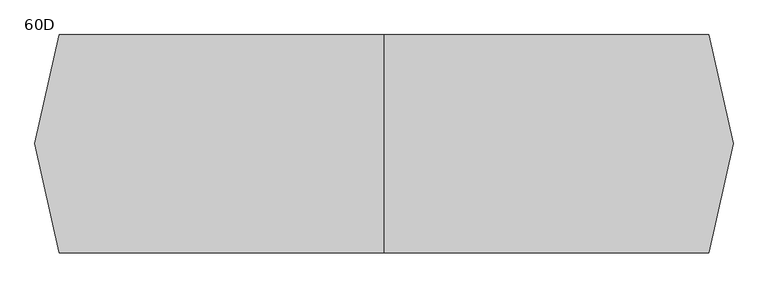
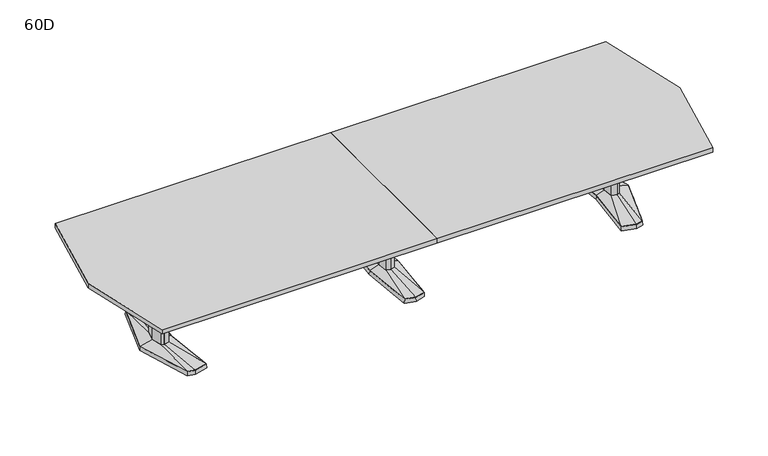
"""IFC4 building model written with IfcOpenShell, lengths in millimetres: furniture geometry, Coalesse_AM_Table_Conference_ETable2_Faceted_16ft_AluminiumBase : 60D."""

from ifc_helpers import new_model, si_unit, frame, origin, place, context, project, spatial, polyline, outline, extrude, faceted_brep, source, transform, mapped, element, save
from ifc_brep_helpers import plane_surface, spline_surface, advanced_brep


def furniture_60d_e359e779(model_context):
    return source(origin(), model_context, "Body", "SolidModel", [
        faceted_brep([(-81.2333791, -433.8053819, 38.1), (0.0, -455.556576, 38.1), (81.2333791, -433.8053819, 38.1), (119.0564774, 0.0, 38.1), (81.2333791, 433.8053819, 38.1), (0.0, 455.556576, 38.1), (-81.2333791, 433.8053819, 38.1), (-119.0564774, 0.0, 38.1), (-82.7182795, -435.0512063, 3.175), (-120.65, 0.0, 3.175), (-82.7182795, 435.0512063, 3.175), (0.0, 457.2, 3.175), (82.7182795, 435.0512063, 3.175), (120.65, 0.0, 3.175), (82.7182795, -435.0512063, 3.175), (0.0, -457.2, 3.175), (0.0, 429.2617927, 3.175), (-77.9676806, 408.3850278, 3.175), (-74.7019821, 382.9646737, 3.175), (0.0, 402.9670094, 3.175), (74.7019821, 382.9646737, 3.175), (77.9676806, 408.3850278, 3.175), (0.0, -429.2617927, 3.175), (77.9676806, -408.3850278, 3.175), (74.7019821, -382.9646737, 3.175), (0.0, -402.9670094, 3.175), (-74.7019821, -382.9646737, 3.175), (-77.9676806, -408.3850278, 3.175), (-71.8574262, 114.6326257, 3.175), (-82.5426076, 0.0, 3.175), (-71.8574262, -114.6326257, 3.175), (0.0, -133.8761372, 3.175), (71.8574262, -114.6326257, 3.175), (82.5426076, 0.0, 3.175), (71.8574262, 114.6326257, 3.175), (0.0, 133.8761372, 3.175), (0.0, 429.2617927, 0.0), (77.9676806, 408.3850278, 0.0), (74.7019821, 382.9646737, 0.0), (0.0, 402.9670094, 0.0), (-74.7019821, 382.9646737, 0.0), (-77.9676806, 408.3850278, 0.0), (0.0, -429.2617927, 0.0), (-77.9676806, -408.3850278, 0.0), (-74.7019821, -382.9646737, 0.0), (0.0, -402.9670094, 0.0), (74.7019821, -382.9646737, 0.0), (77.9676806, -408.3850278, 0.0), (-71.8574262, 114.6326257, 0.0), (0.0, 133.8761372, 0.0), (71.8574262, 114.6326257, 0.0), (82.5426076, 0.0, 0.0), (71.8574262, -114.6326257, 0.0), (0.0, -133.8761372, 0.0), (-71.8574262, -114.6326257, 0.0), (-82.5426076, 0.0, 0.0)], [[[0, 1, 2, 3, 4, 5, 6, 7]], [[8, 9, 10, 11, 12, 13, 14, 15], [16, 17, 18, 19, 20, 21], [22, 23, 24, 25, 26, 27], [28, 29, 30, 31, 32, 33, 34, 35]], [[1, 0, 8, 15]], [[2, 1, 15, 14]], [[3, 2, 14, 13]], [[4, 3, 13, 12]], [[5, 4, 12, 11]], [[6, 5, 11, 10]], [[7, 6, 10, 9]], [[0, 7, 9, 8]], [[36, 37, 38, 39, 40, 41]], [[42, 43, 44, 45, 46, 47]], [[48, 49, 50, 51, 52, 53, 54, 55]], [[36, 41, 17, 16]], [[41, 40, 18, 17]], [[40, 39, 19, 18]], [[39, 38, 20, 19]], [[38, 37, 21, 20]], [[37, 36, 16, 21]], [[42, 47, 23, 22]], [[47, 46, 24, 23]], [[46, 45, 25, 24]], [[45, 44, 26, 25]], [[44, 43, 27, 26]], [[43, 42, 22, 27]], [[48, 55, 29, 28]], [[55, 54, 30, 29]], [[54, 53, 31, 30]], [[53, 52, 32, 31]], [[52, 51, 33, 32]], [[51, 50, 34, 33]], [[50, 49, 35, 34]], [[49, 48, 28, 35]]]),
        faceted_brep([(-36.3832834, 84.6900825, 698.5), (-44.2774487, 0.0, 698.5), (-36.3832834, -84.6900825, 698.5), (0.0, -94.4335728, 698.5), (36.3832834, -84.6900825, 698.5), (44.2774487, 0.0, 698.5), (36.3832834, 84.6900825, 698.5), (0.0, 94.4335728, 698.5), (-36.3832834, 84.6900825, 63.5), (0.0, 94.4335728, 63.5), (36.3832834, 84.6900825, 63.5), (44.2774487, 0.0, 63.5), (36.3832834, -84.6900825, 63.5), (0.0, -94.4335728, 63.5), (-36.3832834, -84.6900825, 63.5), (-44.2774487, 0.0, 63.5)], [[[0, 1, 2, 3, 4, 5, 6, 7]], [[8, 9, 10, 11, 12, 13, 14, 15]], [[1, 0, 8, 15]], [[2, 1, 15, 14]], [[3, 2, 14, 13]], [[4, 3, 13, 12]], [[5, 4, 12, 11]], [[6, 5, 11, 10]], [[7, 6, 10, 9]], [[0, 7, 9, 8]]]),
        advanced_brep(
        [(-36.3832834, 84.6900825, 63.5), (-44.2774487, 0.0, 63.5), (-36.3832834, -84.6900825, 63.5), (0.0, -94.4335728, 63.5), (36.3832834, -84.6900825, 63.5), (44.2774487, 0.0, 63.5), (36.3832834, 84.6900825, 63.5), (0.0, 94.4335728, 63.5), (-81.2333791, 433.8053819, 38.1), (0.0, 455.556576, 38.1), (81.2333791, 433.8053819, 38.1), (119.0564774, 0.0, 38.1), (81.2333791, -433.8053819, 38.1), (0.0, -455.556576, 38.1), (-81.2333791, -433.8053819, 38.1), (-119.0564774, 0.0, 38.1)],
        [
            (0, 1),
            (1, 2),
            (2, 3),
            (3, 4),
            (4, 5),
            (5, 6),
            (6, 7),
            (7, 0),
            (8, 9),
            (9, 10),
            (10, 11),
            (11, 12),
            (12, 13),
            (13, 14),
            (14, 15),
            (15, 8),
            (15, 1),
            (0, 8),
            (14, 2),
            (13, 3),
            (12, 4),
            (11, 5),
            (10, 6),
            (9, 7),
        ],
        [
            plane_surface(frame((0.0, 0.0, 63.5), z_axis=(0.0, 0.0, 1.0000000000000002), x_axis=(-0.9659615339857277, -0.25868574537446, 0.0))),
            plane_surface(frame((0.0, 0.0, 38.1), z_axis=(0.0, 0.0, -1.0000000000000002), x_axis=(-0.9659615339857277, -0.25868574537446, 0.0))),
            spline_surface(1, 1, [[(-81.2333791, 433.8053819, 38.1), (-36.3832834, 84.6900825, 63.5)], [(-119.0564774, 0.0, 38.1), (-44.2774487, 0.0, 63.5)]], [2, 2], [2, 2], [0.0, 1.0], [0.0, 1.0]),
            spline_surface(1, 1, [[(-119.0564774, 0.0, 38.1), (-44.2774487, 0.0, 63.5)], [(-81.2333791, -433.8053819, 38.1), (-36.3832834, -84.6900825, 63.5)]], [2, 2], [2, 2], [0.0, 1.0], [0.0, 1.0]),
            spline_surface(1, 1, [[(-81.2333791, -433.8053819, 38.1), (-36.3832834, -84.6900825, 63.5)], [(0.0, -455.556576, 38.1), (0.0, -94.4335728, 63.5)]], [2, 2], [2, 2], [0.0, 1.0], [0.0, 1.0]),
            spline_surface(1, 1, [[(0.0, -455.556576, 38.1), (0.0, -94.4335728, 63.5)], [(81.2333791, -433.8053819, 38.1), (36.3832834, -84.6900825, 63.5)]], [2, 2], [2, 2], [0.0, 1.0], [0.0, 1.0]),
            spline_surface(1, 1, [[(81.2333791, -433.8053819, 38.1), (36.3832834, -84.6900825, 63.5)], [(119.0564774, 0.0, 38.1), (44.2774487, 0.0, 63.5)]], [2, 2], [2, 2], [0.0, 1.0], [0.0, 1.0]),
            spline_surface(1, 1, [[(119.0564774, 0.0, 38.1), (44.2774487, 0.0, 63.5)], [(81.2333791, 433.8053819, 38.1), (36.3832834, 84.6900825, 63.5)]], [2, 2], [2, 2], [0.0, 1.0], [0.0, 1.0]),
            spline_surface(1, 1, [[(81.2333791, 433.8053819, 38.1), (36.3832834, 84.6900825, 63.5)], [(0.0, 455.556576, 38.1), (0.0, 94.4335728, 63.5)]], [2, 2], [2, 2], [0.0, 1.0], [0.0, 1.0]),
            spline_surface(1, 1, [[(0.0, 455.556576, 38.1), (0.0, 94.4335728, 63.5)], [(-81.2333791, 433.8053819, 38.1), (-36.3832834, 84.6900825, 63.5)]], [2, 2], [2, 2], [0.0, 1.0], [0.0, 1.0]),
        ],
        [
            (0, [[1, 2, 3, 4, 5, 6, 7, 8]]),
            (1, [[9, 10, 11, 12, 13, 14, 15, 16]]),
            (2, [[-16, 17, -1, 18]]),
            (3, [[-15, 19, -2, -17]]),
            (4, [[-14, 20, -3, -19]]),
            (5, [[-13, 21, -4, -20]]),
            (6, [[-12, 22, -5, -21]]),
            (7, [[-11, 23, -6, -22]]),
            (8, [[-10, 24, -7, -23]]),
            (9, [[-9, -18, -8, -24]]),
        ],
    ),
        faceted_brep([(1820.2306835, 455.5848221, 38.1), (1710.6531277, 426.2263816, 38.1), (1751.8163717, 0.0, 38.1), (1710.6531277, -426.2263816, 38.1), (1820.2306835, -455.5848221, 38.1), (1876.3570396, -440.5478297, 38.1), (2013.6684269, 0.0, 38.1), (1876.3570396, 440.5478297, 38.1), (1820.2306754, 457.2283104, 3.175), (1877.6124472, 441.8549756, 3.175), (2015.33125, 0.0, 3.175), (1877.6124472, -441.8549756, 3.175), (1820.2306754, -457.2283104, 3.175), (1708.94375, -427.4118891, 3.175), (1750.2214856, 0.0, 3.175), (1708.94375, 427.4118891, 3.175), (1823.820115, 428.3273875, 3.175), (1718.7718228, 402.1057253, 3.175), (1726.890518, 377.985069, 3.175), (1827.4095466, 401.0699529, 3.175), (1877.9691725, 387.524361, 3.175), (1877.1631061, 414.0360954, 3.175), (1823.820115, -428.3273875, 3.175), (1877.1631061, -414.0360954, 3.175), (1877.9691725, -387.524361, 3.175), (1827.4095466, -401.0699529, 3.175), (1726.890518, -377.985069, 3.175), (1718.7718228, -402.1057253, 3.175), (1950.4153621, 0.0, 3.175), (1918.1459611, 120.4193755, 3.175), (1869.4987222, 133.471665, 3.175), (1789.6180526, 119.4176561, 3.175), (1778.4868466, 0.0, 3.175), (1789.6180526, -119.4176561, 3.175), (1869.4987222, -133.471665, 3.175), (1918.1459611, -120.4193755, 3.175), (1823.820115, 428.3273875, 0.0), (1877.1631061, 414.0360954, 0.0), (1877.9691725, 387.524361, 0.0), (1827.4095466, 401.0699529, 0.0), (1726.890518, 377.985069, 0.0), (1718.7718228, 402.1057253, 0.0), (1823.820115, -428.3273875, 0.0), (1718.7718228, -402.1057253, 0.0), (1726.890518, -377.985069, 0.0), (1827.4095466, -401.0699529, 0.0), (1877.9691725, -387.524361, 0.0), (1877.1631061, -414.0360954, 0.0), (1950.4153621, 0.0, 0.0), (1918.1459611, -120.4193755, 0.0), (1869.4987222, -133.471665, 0.0), (1789.6180526, -119.4176561, 0.0), (1778.4868466, 0.0, 0.0), (1789.6180526, 119.4176561, 0.0), (1869.4987222, 133.471665, 0.0), (1918.1459611, 120.4193755, 0.0)], [[[0, 1, 2, 3, 4, 5, 6, 7]], [[8, 9, 10, 11, 12, 13, 14, 15], [16, 17, 18, 19, 20, 21], [22, 23, 24, 25, 26, 27], [28, 29, 30, 31, 32, 33, 34, 35]], [[7, 9, 8, 0]], [[6, 10, 9, 7]], [[5, 11, 10, 6]], [[4, 12, 11, 5]], [[3, 13, 12, 4]], [[2, 14, 13, 3]], [[1, 15, 14, 2]], [[0, 8, 15, 1]], [[36, 37, 38, 39, 40, 41]], [[42, 43, 44, 45, 46, 47]], [[48, 49, 50, 51, 52, 53, 54, 55]], [[36, 16, 21, 37]], [[37, 21, 20, 38]], [[38, 20, 19, 39]], [[39, 19, 18, 40]], [[40, 18, 17, 41]], [[41, 17, 16, 36]], [[42, 22, 27, 43]], [[43, 27, 26, 44]], [[44, 26, 25, 45]], [[45, 25, 24, 46]], [[46, 24, 23, 47]], [[47, 23, 22, 42]], [[48, 28, 35, 49]], [[49, 35, 34, 50]], [[50, 34, 33, 51]], [[51, 33, 32, 52]], [[52, 32, 31, 53]], [[53, 31, 30, 54]], [[54, 30, 29, 55]], [[55, 29, 28, 48]]]),
        faceted_brep([(1910.9710836, 0.0, 698.5), (1887.0358546, 89.3188359, 698.5), (1870.1824984, 93.8406728, 698.5), (1867.7826511, 94.4845635, 698.5), (1824.855146, 86.9320037, 698.5), (1816.7520056, 0.0, 698.5), (1824.855146, -86.9320037, 698.5), (1867.7826511, -94.4845635, 698.5), (1870.1824984, -93.8406728, 698.5), (1887.0358546, -89.3188359, 698.5), (1910.9710836, 0.0, 63.5), (1887.0358546, -89.3188359, 63.5), (1870.1824984, -93.8406728, 63.5), (1867.7826511, -94.4845635, 63.5), (1824.855146, -86.9320037, 63.5), (1816.7520056, 0.0, 63.5), (1824.855146, 86.9320037, 63.5), (1867.7826511, 94.4845635, 63.5), (1870.1824984, 93.8406728, 63.5), (1887.0358546, 89.3188359, 63.5)], [[[0, 1, 2, 3, 4, 5, 6, 7, 8, 9]], [[10, 11, 12, 13, 14, 15, 16, 17, 18, 19]], [[9, 11, 10, 0]], [[8, 12, 11, 9]], [[7, 13, 12, 8]], [[6, 14, 13, 7]], [[5, 15, 14, 6]], [[4, 16, 15, 5]], [[3, 17, 16, 4]], [[2, 18, 17, 3]], [[1, 19, 18, 2]], [[0, 10, 19, 1]]]),
        advanced_brep(
        [(1867.7826511, 94.4845635, 63.5), (1824.855146, 86.9320037, 63.5), (1816.7520056, 0.0, 63.5), (1824.855146, -86.9320037, 63.5), (1867.7826511, -94.4845635, 63.5), (1887.0358546, -89.3188359, 63.5), (1910.9710836, 0.0, 63.5), (1887.0358546, 89.3188359, 63.5), (1820.2306835, 455.5848221, 38.1), (1876.3570396, 440.5478297, 38.1), (2013.6684269, 0.0, 38.1), (1876.3570396, -440.5478297, 38.1), (1820.2306835, -455.5848221, 38.1), (1710.6531277, -426.2263816, 38.1), (1751.8163717, 0.0, 38.1), (1710.6531277, 426.2263816, 38.1)],
        [
            (0, 1),
            (1, 2),
            (2, 3),
            (3, 4),
            (4, 5),
            (5, 6),
            (6, 7),
            (7, 0),
            (8, 9),
            (9, 10),
            (10, 11),
            (11, 12),
            (12, 13),
            (13, 14),
            (14, 15),
            (15, 8),
            (8, 0),
            (7, 9),
            (6, 10),
            (5, 11),
            (4, 12),
            (3, 13),
            (2, 14),
            (1, 15),
        ],
        [
            plane_surface(frame((1860.8837991, 0.0, 63.5), z_axis=(0.0, 0.0, 1.0), x_axis=(-0.25884244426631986, -0.9659195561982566, 0.0))),
            plane_surface(frame((1822.4958125, 0.0, 38.1), z_axis=(0.0, 0.0, -1.0), x_axis=(-0.25884244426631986, -0.9659195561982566, 0.0))),
            spline_surface(1, 1, [[(1820.2306835, 455.5848221, 38.1), (1876.3570396, 440.5478297, 38.1)], [(1867.7826511, 94.4845635, 63.5), (1887.0358546, 89.3188359, 63.5)]], [2, 2], [2, 2], [0.0, 1.0], [0.0, 1.0]),
            spline_surface(1, 1, [[(1876.3570396, 440.5478297, 38.1), (2013.6684269, 0.0, 38.1)], [(1887.0358546, 89.3188359, 63.5), (1910.9710836, 0.0, 63.5)]], [2, 2], [2, 2], [0.0, 1.0], [0.0, 1.0]),
            spline_surface(1, 1, [[(2013.6684269, 0.0, 38.1), (1876.3570396, -440.5478297, 38.1)], [(1910.9710836, 0.0, 63.5), (1887.0358546, -89.3188359, 63.5)]], [2, 2], [2, 2], [0.0, 1.0], [0.0, 1.0]),
            spline_surface(1, 1, [[(1876.3570396, -440.5478297, 38.1), (1820.2306835, -455.5848221, 38.1)], [(1887.0358546, -89.3188359, 63.5), (1867.7826511, -94.4845635, 63.5)]], [2, 2], [2, 2], [0.0, 1.0], [0.0, 1.0]),
            spline_surface(1, 1, [[(1820.2306835, -455.5848221, 38.1), (1710.6531277, -426.2263816, 38.1)], [(1867.7826511, -94.4845635, 63.5), (1824.855146, -86.9320037, 63.5)]], [2, 2], [2, 2], [0.0, 1.0], [0.0, 1.0]),
            spline_surface(1, 1, [[(1710.6531277, -426.2263816, 38.1), (1751.8163717, 0.0, 38.1)], [(1824.855146, -86.9320037, 63.5), (1816.7520056, 0.0, 63.5)]], [2, 2], [2, 2], [0.0, 1.0], [0.0, 1.0]),
            spline_surface(1, 1, [[(1751.8163717, 0.0, 38.1), (1710.6531277, 426.2263816, 38.1)], [(1816.7520056, 0.0, 63.5), (1824.855146, 86.9320037, 63.5)]], [2, 2], [2, 2], [0.0, 1.0], [0.0, 1.0]),
            spline_surface(1, 1, [[(1710.6531277, 426.2263816, 38.1), (1820.2306835, 455.5848221, 38.1)], [(1824.855146, 86.9320037, 63.5), (1867.7826511, 94.4845635, 63.5)]], [2, 2], [2, 2], [0.0, 1.0], [0.0, 1.0]),
        ],
        [
            (0, [[1, 2, 3, 4, 5, 6, 7, 8]]),
            (1, [[9, 10, 11, 12, 13, 14, 15, 16]]),
            (2, [[17, -8, 18, -9]]),
            (3, [[-18, -7, 19, -10]]),
            (4, [[-19, -6, 20, -11]]),
            (5, [[-20, -5, 21, -12]]),
            (6, [[-21, -4, 22, -13]]),
            (7, [[-22, -3, 23, -14]]),
            (8, [[-23, -2, 24, -15]]),
            (9, [[-24, -1, -17, -16]]),
        ],
    ),
        faceted_brep([(-1820.2306835, 455.5848221, 38.1), (-1876.3570396, 440.5478297, 38.1), (-2013.6684269, 0.0, 38.1), (-1876.3570396, -440.5478297, 38.1), (-1820.2306835, -455.5848221, 38.1), (-1710.6531277, -426.2263816, 38.1), (-1751.8163717, 0.0, 38.1), (-1710.6531277, 426.2263816, 38.1), (-1820.2306754, 457.2283104, 3.175), (-1708.94375, 427.4118891, 3.175), (-1750.2214856, 0.0, 3.175), (-1708.94375, -427.4118891, 3.175), (-1820.2306754, -457.2283104, 3.175), (-1877.6124472, -441.8549756, 3.175), (-2015.33125, 0.0, 3.175), (-1877.6124472, 441.8549756, 3.175), (-1823.820115, 428.3273875, 3.175), (-1877.1631061, 414.0360954, 3.175), (-1877.9691725, 387.524361, 3.175), (-1827.4095466, 401.0699529, 3.175), (-1726.890518, 377.985069, 3.175), (-1718.7718228, 402.1057253, 3.175), (-1823.820115, -428.3273875, 3.175), (-1718.7718228, -402.1057253, 3.175), (-1726.890518, -377.985069, 3.175), (-1827.4095466, -401.0699529, 3.175), (-1877.9691725, -387.524361, 3.175), (-1877.1631061, -414.0360954, 3.175), (-1950.4153621, 0.0, 3.175), (-1918.1459611, -120.4193755, 3.175), (-1869.4987222, -133.471665, 3.175), (-1789.6180526, -119.4176561, 3.175), (-1778.4868466, 0.0, 3.175), (-1789.6180526, 119.4176561, 3.175), (-1869.4987222, 133.471665, 3.175), (-1918.1459611, 120.4193755, 3.175), (-1823.820115, 428.3273875, 0.0), (-1718.7718228, 402.1057253, 0.0), (-1726.890518, 377.985069, 0.0), (-1827.4095466, 401.0699529, 0.0), (-1877.9691725, 387.524361, 0.0), (-1877.1631061, 414.0360954, 0.0), (-1823.820115, -428.3273875, 0.0), (-1877.1631061, -414.0360954, 0.0), (-1877.9691725, -387.524361, 0.0), (-1827.4095466, -401.0699529, 0.0), (-1726.890518, -377.985069, 0.0), (-1718.7718228, -402.1057253, 0.0), (-1950.4153621, 0.0, 0.0), (-1918.1459611, 120.4193755, 0.0), (-1869.4987222, 133.471665, 0.0), (-1789.6180526, 119.4176561, 0.0), (-1778.4868466, 0.0, 0.0), (-1789.6180526, -119.4176561, 0.0), (-1869.4987222, -133.471665, 0.0), (-1918.1459611, -120.4193755, 0.0)], [[[0, 1, 2, 3, 4, 5, 6, 7]], [[8, 9, 10, 11, 12, 13, 14, 15], [16, 17, 18, 19, 20, 21], [22, 23, 24, 25, 26, 27], [28, 29, 30, 31, 32, 33, 34, 35]], [[1, 0, 8, 15]], [[2, 1, 15, 14]], [[3, 2, 14, 13]], [[4, 3, 13, 12]], [[5, 4, 12, 11]], [[6, 5, 11, 10]], [[7, 6, 10, 9]], [[0, 7, 9, 8]], [[36, 37, 38, 39, 40, 41]], [[42, 43, 44, 45, 46, 47]], [[48, 49, 50, 51, 52, 53, 54, 55]], [[36, 41, 17, 16]], [[41, 40, 18, 17]], [[40, 39, 19, 18]], [[39, 38, 20, 19]], [[38, 37, 21, 20]], [[37, 36, 16, 21]], [[42, 47, 23, 22]], [[47, 46, 24, 23]], [[46, 45, 25, 24]], [[45, 44, 26, 25]], [[44, 43, 27, 26]], [[43, 42, 22, 27]], [[48, 55, 29, 28]], [[55, 54, 30, 29]], [[54, 53, 31, 30]], [[53, 52, 32, 31]], [[52, 51, 33, 32]], [[51, 50, 34, 33]], [[50, 49, 35, 34]], [[49, 48, 28, 35]]]),
        faceted_brep([(-1910.9710836, 0.0, 698.5), (-1887.0358546, -89.3188359, 698.5), (-1870.1824984, -93.8406728, 698.5), (-1867.7826511, -94.4845635, 698.5), (-1824.855146, -86.9320037, 698.5), (-1816.7520056, 0.0, 698.5), (-1824.855146, 86.9320037, 698.5), (-1867.7826511, 94.4845635, 698.5), (-1870.1824984, 93.8406728, 698.5), (-1887.0358546, 89.3188359, 698.5), (-1910.9710836, 0.0, 63.5), (-1887.0358546, 89.3188359, 63.5), (-1870.1824984, 93.8406728, 63.5), (-1867.7826511, 94.4845635, 63.5), (-1824.855146, 86.9320037, 63.5), (-1816.7520056, 0.0, 63.5), (-1824.855146, -86.9320037, 63.5), (-1867.7826511, -94.4845635, 63.5), (-1870.1824984, -93.8406728, 63.5), (-1887.0358546, -89.3188359, 63.5)], [[[0, 1, 2, 3, 4, 5, 6, 7, 8, 9]], [[10, 11, 12, 13, 14, 15, 16, 17, 18, 19]], [[1, 0, 10, 19]], [[2, 1, 19, 18]], [[3, 2, 18, 17]], [[4, 3, 17, 16]], [[5, 4, 16, 15]], [[6, 5, 15, 14]], [[7, 6, 14, 13]], [[8, 7, 13, 12]], [[9, 8, 12, 11]], [[0, 9, 11, 10]]]),
        advanced_brep(
        [(-1867.7826511, 94.4845635, 63.5), (-1887.0358546, 89.3188359, 63.5), (-1910.9710836, 0.0, 63.5), (-1887.0358546, -89.3188359, 63.5), (-1867.7826511, -94.4845635, 63.5), (-1824.855146, -86.9320037, 63.5), (-1816.7520056, 0.0, 63.5), (-1824.855146, 86.9320037, 63.5), (-1820.2306835, 455.5848221, 38.1), (-1710.6531277, 426.2263816, 38.1), (-1751.8163717, 0.0, 38.1), (-1710.6531277, -426.2263816, 38.1), (-1820.2306835, -455.5848221, 38.1), (-1876.3570396, -440.5478297, 38.1), (-2013.6684269, 0.0, 38.1), (-1876.3570396, 440.5478297, 38.1)],
        [
            (0, 1),
            (1, 2),
            (2, 3),
            (3, 4),
            (4, 5),
            (5, 6),
            (6, 7),
            (7, 0),
            (8, 9),
            (9, 10),
            (10, 11),
            (11, 12),
            (12, 13),
            (13, 14),
            (14, 15),
            (15, 8),
            (15, 1),
            (0, 8),
            (14, 2),
            (13, 3),
            (12, 4),
            (11, 5),
            (10, 6),
            (9, 7),
        ],
        [
            plane_surface(frame((-1860.8837991, 0.0, 63.5), z_axis=(0.0, 0.0, 1.0), x_axis=(0.25884244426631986, -0.9659195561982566, 0.0))),
            plane_surface(frame((-1822.4958125, 0.0, 38.1), z_axis=(0.0, 0.0, -1.0), x_axis=(0.25884244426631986, -0.9659195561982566, 0.0))),
            spline_surface(1, 1, [[(-1820.2306835, 455.5848221, 38.1), (-1867.7826511, 94.4845635, 63.5)], [(-1876.3570396, 440.5478297, 38.1), (-1887.0358546, 89.3188359, 63.5)]], [2, 2], [2, 2], [0.0, 1.0], [0.0, 1.0]),
            spline_surface(1, 1, [[(-1876.3570396, 440.5478297, 38.1), (-1887.0358546, 89.3188359, 63.5)], [(-2013.6684269, 0.0, 38.1), (-1910.9710836, 0.0, 63.5)]], [2, 2], [2, 2], [0.0, 1.0], [0.0, 1.0]),
            spline_surface(1, 1, [[(-2013.6684269, 0.0, 38.1), (-1910.9710836, 0.0, 63.5)], [(-1876.3570396, -440.5478297, 38.1), (-1887.0358546, -89.3188359, 63.5)]], [2, 2], [2, 2], [0.0, 1.0], [0.0, 1.0]),
            spline_surface(1, 1, [[(-1876.3570396, -440.5478297, 38.1), (-1887.0358546, -89.3188359, 63.5)], [(-1820.2306835, -455.5848221, 38.1), (-1867.7826511, -94.4845635, 63.5)]], [2, 2], [2, 2], [0.0, 1.0], [0.0, 1.0]),
            spline_surface(1, 1, [[(-1820.2306835, -455.5848221, 38.1), (-1867.7826511, -94.4845635, 63.5)], [(-1710.6531277, -426.2263816, 38.1), (-1824.855146, -86.9320037, 63.5)]], [2, 2], [2, 2], [0.0, 1.0], [0.0, 1.0]),
            spline_surface(1, 1, [[(-1710.6531277, -426.2263816, 38.1), (-1824.855146, -86.9320037, 63.5)], [(-1751.8163717, 0.0, 38.1), (-1816.7520056, 0.0, 63.5)]], [2, 2], [2, 2], [0.0, 1.0], [0.0, 1.0]),
            spline_surface(1, 1, [[(-1751.8163717, 0.0, 38.1), (-1816.7520056, 0.0, 63.5)], [(-1710.6531277, 426.2263816, 38.1), (-1824.855146, 86.9320037, 63.5)]], [2, 2], [2, 2], [0.0, 1.0], [0.0, 1.0]),
            spline_surface(1, 1, [[(-1710.6531277, 426.2263816, 38.1), (-1824.855146, 86.9320037, 63.5)], [(-1820.2306835, 455.5848221, 38.1), (-1867.7826511, 94.4845635, 63.5)]], [2, 2], [2, 2], [0.0, 1.0], [0.0, 1.0]),
        ],
        [
            (0, [[1, 2, 3, 4, 5, 6, 7, 8]]),
            (1, [[9, 10, 11, 12, 13, 14, 15, 16]]),
            (2, [[-16, 17, -1, 18]]),
            (3, [[-15, 19, -2, -17]]),
            (4, [[-14, 20, -3, -19]]),
            (5, [[-13, 21, -4, -20]]),
            (6, [[-12, 22, -5, -21]]),
            (7, [[-11, 23, -6, -22]]),
            (8, [[-10, 24, -7, -23]]),
            (9, [[-9, -18, -8, -24]]),
        ],
    ),
        extrude(outline(polyline([(96.8375, 698.5), (103.1875, 698.5), (103.1875, 476.25), (-103.1875, 476.25), (-103.1875, 698.5), (-96.8375, 698.5), (-96.8375, 482.6), (96.8375, 482.6), (96.8375, 698.5)])), frame((44.2774487, 0.0, 0.0), z_axis=(1.0, 0.0, 0.0), x_axis=(0.0, 1.0, 0.0)), (0.0, 0.0, 1.0), 1772.6163013),
        extrude(outline(polyline([(2269.4677242, 762.0), (2438.4, 0.0), (2269.4677242, -762.0), (0.0, -762.0), (0.0, 762.0), (2269.4677242, 762.0)])), frame((0.0, 0.0, 698.5), z_axis=(0.0, 0.0, 1.0), x_axis=(1.0, 0.0, 0.0)), (0.0, 0.0, 1.0), 38.1),
        extrude(outline(polyline([(0.0, 762.0), (0.0, -762.0), (-2269.4677242, -762.0), (-2438.4, 0.0), (-2269.4677242, 762.0), (0.0, 762.0)])), frame((0.0, 0.0, 698.5), z_axis=(0.0, 0.0, 1.0), x_axis=(1.0, 0.0, 0.0)), (0.0, 0.0, 1.0), 38.1),
        extrude(outline(polyline([(96.8375, 698.5), (103.1875, 698.5), (103.1875, 476.25), (-103.1875, 476.25), (-103.1875, 698.5), (-96.8375, 698.5), (-96.8375, 482.6), (96.8375, 482.6), (96.8375, 698.5)])), frame((-1816.89375, 0.0, 0.0), z_axis=(1.0, 0.0, 0.0), x_axis=(0.0, 1.0, 0.0)), (0.0, 0.0, 1.0), 1772.6163013),
    ])


if __name__ == "__main__":
    model = new_model("IFC4")
    model_context = context("Model", 3, world=origin())
    ifc_project = project(units=[si_unit("LENGTHUNIT", "METRE", prefix="MILLI")], contexts=[model_context])
    site = spatial("IfcSite", under=ifc_project)
    building = spatial("IfcBuilding", under=site)
    placement = place(None, origin())
    furniture_60d_shape = furniture_60d_e359e779(model_context)
    element("IfcFurniture", 1, ObjectType="Coalesse_AM_Table_Conference_ETable2_Faceted_16ft_AluminiumBase : 60D", at=placement, inside=building, context=model_context, shape_type="MappedRepresentation", body=[
        mapped(furniture_60d_shape, transform((0.0, 0.0, 0.0), x_axis=(1.0, 0.0, 0.0), y_axis=(0.0, 1.0, 0.0), z_axis=(0.0, 0.0, 1.0))),
    ])
    save(model, "model.ifc")
